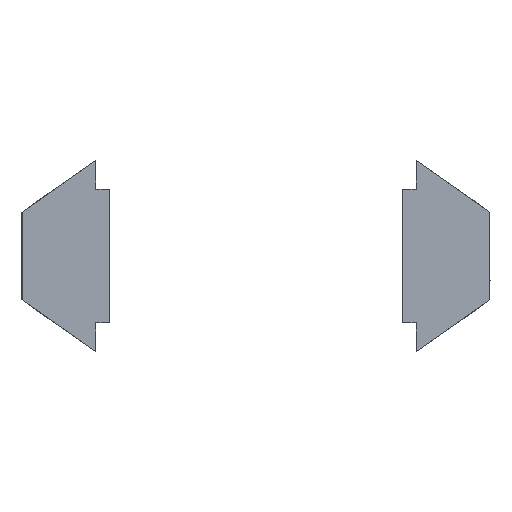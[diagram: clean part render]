
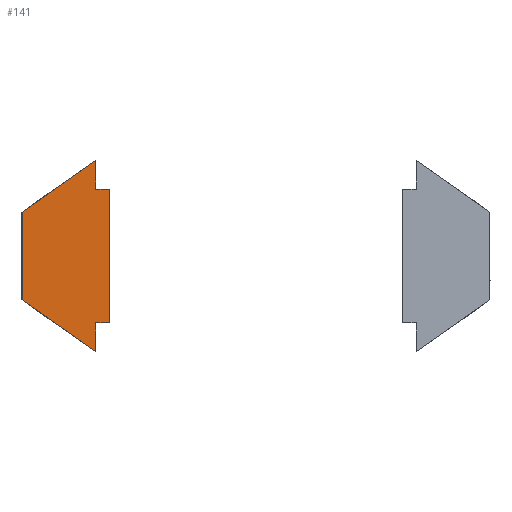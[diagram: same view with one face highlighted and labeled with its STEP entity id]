
A CAD part, left-side view. The second image highlights one B-rep face of the part: STEP entity #141.
In plain terms, the highlighted planar face has unit normal (-1, 0, 0) as drawn and (0, -1, 0) by its records, which use the part's own axes.
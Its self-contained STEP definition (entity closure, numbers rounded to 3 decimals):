
#141=ADVANCED_FACE('',(#232),#3375,.T.);
#232=FACE_OUTER_BOUND('',#324,.T.);
#324=EDGE_LOOP('',(#452,#453,#454,#455,#456,#457,#458,#459));
#452=ORIENTED_EDGE('',*,*,#2262,.F.);
#453=ORIENTED_EDGE('',*,*,#2259,.F.);
#454=ORIENTED_EDGE('',*,*,#2254,.F.);
#455=ORIENTED_EDGE('',*,*,#2251,.F.);
#456=ORIENTED_EDGE('',*,*,#2248,.F.);
#457=ORIENTED_EDGE('',*,*,#2245,.F.);
#458=ORIENTED_EDGE('',*,*,#2264,.T.);
#459=ORIENTED_EDGE('',*,*,#2237,.F.);
#977=PCURVE('',#3367,#1481);
#986=PCURVE('',#3369,#1490);
#990=PCURVE('',#3370,#1494);
#994=PCURVE('',#3371,#1498);
#998=PCURVE('',#3372,#1502);
#1004=PCURVE('',#3373,#1508);
#1008=PCURVE('',#3374,#1512);
#1012=PCURVE('',#3375,#1516);
#1013=PCURVE('',#3375,#1517);
#1014=PCURVE('',#3375,#1518);
#1015=PCURVE('',#3375,#1519);
#1016=PCURVE('',#3375,#1520);
#1017=PCURVE('',#3375,#1521);
#1018=PCURVE('',#3375,#1522);
#1019=PCURVE('',#3375,#1523);
#1036=PCURVE('',#3368,#1540);
#1481=DEFINITIONAL_REPRESENTATION('',(#2494),#6849);
#1490=DEFINITIONAL_REPRESENTATION('',(#2509),#6849);
#1494=DEFINITIONAL_REPRESENTATION('',(#2516),#6849);
#1498=DEFINITIONAL_REPRESENTATION('',(#2523),#6849);
#1502=DEFINITIONAL_REPRESENTATION('',(#2530),#6849);
#1508=DEFINITIONAL_REPRESENTATION('',(#2539),#6849);
#1512=DEFINITIONAL_REPRESENTATION('',(#2546),#6849);
#1516=DEFINITIONAL_REPRESENTATION('',(#2551),#6849);
#1517=DEFINITIONAL_REPRESENTATION('',(#2552),#6849);
#1518=DEFINITIONAL_REPRESENTATION('',(#2553),#6849);
#1519=DEFINITIONAL_REPRESENTATION('',(#2554),#6849);
#1520=DEFINITIONAL_REPRESENTATION('',(#2555),#6849);
#1521=DEFINITIONAL_REPRESENTATION('',(#2556),#6849);
#1522=DEFINITIONAL_REPRESENTATION('',(#2558),#6849);
#1523=DEFINITIONAL_REPRESENTATION('',(#2559),#6849);
#1540=DEFINITIONAL_REPRESENTATION('',(#2576),#6849);
#1985=SURFACE_CURVE('',#2493,(#977,#1019),.PCURVE_S1.);
#1993=SURFACE_CURVE('',#2508,(#986,#1017),.PCURVE_S1.);
#1996=SURFACE_CURVE('',#2515,(#990,#1016),.PCURVE_S1.);
#1999=SURFACE_CURVE('',#2522,(#994,#1015),.PCURVE_S1.);
#2002=SURFACE_CURVE('',#2529,(#998,#1014),.PCURVE_S1.);
#2007=SURFACE_CURVE('',#2538,(#1004,#1013),.PCURVE_S1.);
#2010=SURFACE_CURVE('',#2545,(#1008,#1012),.PCURVE_S1.);
#2012=SURFACE_CURVE('',#2557,(#1018,#1036),.PCURVE_S1.);
#2237=EDGE_CURVE('',#3185,#3186,#1985,.T.);
#2245=EDGE_CURVE('',#3189,#3191,#1993,.T.);
#2248=EDGE_CURVE('',#3191,#3193,#1996,.T.);
#2251=EDGE_CURVE('',#3193,#3195,#1999,.T.);
#2254=EDGE_CURVE('',#3195,#3197,#2002,.T.);
#2259=EDGE_CURVE('',#3197,#3199,#2007,.T.);
#2262=EDGE_CURVE('',#3199,#3185,#2010,.T.);
#2264=EDGE_CURVE('',#3189,#3186,#2012,.T.);
#2493=B_SPLINE_CURVE_WITH_KNOTS('',1,(#3766,#3767),.UNSPECIFIED.,.F.,.F.,
(2,2),(-3.906,0.),.UNSPECIFIED.);
#2494=B_SPLINE_CURVE_WITH_KNOTS('',1,(#3768,#3769),.UNSPECIFIED.,.F.,.F.,
(2,2),(-3.906,0.),.UNSPECIFIED.);
#2508=B_SPLINE_CURVE_WITH_KNOTS('',1,(#3842,#3843),.UNSPECIFIED.,.F.,.F.,
(2,2),(3.819,7.725),.UNSPECIFIED.);
#2509=B_SPLINE_CURVE_WITH_KNOTS('',1,(#3844,#3845),.UNSPECIFIED.,.F.,.F.,
(2,2),(3.819,7.725),.UNSPECIFIED.);
#2515=B_SPLINE_CURVE_WITH_KNOTS('',1,(#3856,#3857),.UNSPECIFIED.,.F.,.F.,
(2,2),(7.725,8.975),.UNSPECIFIED.);
#2516=B_SPLINE_CURVE_WITH_KNOTS('',1,(#3858,#3859),.UNSPECIFIED.,.F.,.F.,
(2,2),(7.725,8.975),.UNSPECIFIED.);
#2522=B_SPLINE_CURVE_WITH_KNOTS('',1,(#3870,#3871),.UNSPECIFIED.,.F.,.F.,
(2,2),(8.975,9.575),.UNSPECIFIED.);
#2523=B_SPLINE_CURVE_WITH_KNOTS('',1,(#3872,#3873),.UNSPECIFIED.,.F.,.F.,
(2,2),(8.975,9.575),.UNSPECIFIED.);
#2529=B_SPLINE_CURVE_WITH_KNOTS('',1,(#3884,#3885),.UNSPECIFIED.,.F.,.F.,
(2,2),(9.575,15.375),.UNSPECIFIED.);
#2530=B_SPLINE_CURVE_WITH_KNOTS('',1,(#3886,#3887),.UNSPECIFIED.,.F.,.F.,
(2,2),(9.575,15.375),.UNSPECIFIED.);
#2538=B_SPLINE_CURVE_WITH_KNOTS('',1,(#3958,#3959),.UNSPECIFIED.,.F.,.F.,
(2,2),(15.375,15.975),.UNSPECIFIED.);
#2539=B_SPLINE_CURVE_WITH_KNOTS('',1,(#3960,#3961),.UNSPECIFIED.,.F.,.F.,
(2,2),(15.375,15.975),.UNSPECIFIED.);
#2545=B_SPLINE_CURVE_WITH_KNOTS('',1,(#3972,#3973),.UNSPECIFIED.,.F.,.F.,
(2,2),(15.975,17.225),.UNSPECIFIED.);
#2546=B_SPLINE_CURVE_WITH_KNOTS('',1,(#3974,#3975),.UNSPECIFIED.,.F.,.F.,
(2,2),(15.975,17.225),.UNSPECIFIED.);
#2551=B_SPLINE_CURVE_WITH_KNOTS('',1,(#3984,#3985),.UNSPECIFIED.,.F.,.F.,
(2,2),(15.975,17.225),.UNSPECIFIED.);
#2552=B_SPLINE_CURVE_WITH_KNOTS('',1,(#3986,#3987),.UNSPECIFIED.,.F.,.F.,
(2,2),(15.375,15.975),.UNSPECIFIED.);
#2553=B_SPLINE_CURVE_WITH_KNOTS('',1,(#3988,#3989),.UNSPECIFIED.,.F.,.F.,
(2,2),(9.575,15.375),.UNSPECIFIED.);
#2554=B_SPLINE_CURVE_WITH_KNOTS('',1,(#3990,#3991),.UNSPECIFIED.,.F.,.F.,
(2,2),(8.975,9.575),.UNSPECIFIED.);
#2555=B_SPLINE_CURVE_WITH_KNOTS('',1,(#3992,#3993),.UNSPECIFIED.,.F.,.F.,
(2,2),(7.725,8.975),.UNSPECIFIED.);
#2556=B_SPLINE_CURVE_WITH_KNOTS('',1,(#3994,#3995),.UNSPECIFIED.,.F.,.F.,
(2,2),(3.819,7.725),.UNSPECIFIED.);
#2557=B_SPLINE_CURVE_WITH_KNOTS('',1,(#3996,#3997),.UNSPECIFIED.,.F.,.F.,
(2,2),(-3.819,0.),.UNSPECIFIED.);
#2558=B_SPLINE_CURVE_WITH_KNOTS('',1,(#3998,#3999),.UNSPECIFIED.,.F.,.F.,
(2,2),(-3.819,0.),.UNSPECIFIED.);
#2559=B_SPLINE_CURVE_WITH_KNOTS('',1,(#4000,#4001),.UNSPECIFIED.,.F.,.F.,
(2,2),(-3.906,0.),.UNSPECIFIED.);
#2576=B_SPLINE_CURVE_WITH_KNOTS('',1,(#4063,#4064),.UNSPECIFIED.,.F.,.F.,
(2,2),(-3.819,0.),.UNSPECIFIED.);
#3185=VERTEX_POINT('',#3696);
#3186=VERTEX_POINT('',#3697);
#3189=VERTEX_POINT('',#3700);
#3191=VERTEX_POINT('',#3702);
#3193=VERTEX_POINT('',#3704);
#3195=VERTEX_POINT('',#3706);
#3197=VERTEX_POINT('',#3708);
#3199=VERTEX_POINT('',#3710);
#3367=PLANE('',#3483);
#3368=PLANE('',#3484);
#3369=PLANE('',#3485);
#3370=PLANE('',#3486);
#3371=PLANE('',#3487);
#3372=PLANE('',#3488);
#3373=PLANE('',#3489);
#3374=PLANE('',#3490);
#3375=PLANE('',#3491);
#3483=AXIS2_PLACEMENT_3D('',#3650,#3564,$);
#3484=AXIS2_PLACEMENT_3D('',#3651,#3565,$);
#3485=AXIS2_PLACEMENT_3D('',#3652,#3566,$);
#3486=AXIS2_PLACEMENT_3D('',#3653,#3567,$);
#3487=AXIS2_PLACEMENT_3D('',#3654,#3568,$);
#3488=AXIS2_PLACEMENT_3D('',#3655,#3569,$);
#3489=AXIS2_PLACEMENT_3D('',#3656,#3570,$);
#3490=AXIS2_PLACEMENT_3D('',#3657,#3571,$);
#3491=AXIS2_PLACEMENT_3D('',#3694,#3572,$);
#3564=DIRECTION('',(-0.574,0.,-0.819));
#3565=DIRECTION('',(-1.,0.,0.));
#3566=DIRECTION('',(-0.574,0.,0.819));
#3567=DIRECTION('',(1.,0.,0.));
#3568=DIRECTION('',(0.,0.,1.));
#3569=DIRECTION('',(1.,0.,0.));
#3570=DIRECTION('',(0.,0.,-1.));
#3571=DIRECTION('',(1.,0.,0.));
#3572=DIRECTION('',(0.,-1.,0.));
#3650=CARTESIAN_POINT('',(-0.6,-11.,-4.15));
#3651=CARTESIAN_POINT('',(-3.8,-11.,-1.909));
#3652=CARTESIAN_POINT('',(-3.8,-11.,1.909));
#3653=CARTESIAN_POINT('',(-0.6,-11.,4.15));
#3654=CARTESIAN_POINT('',(-0.6,-11.,2.9));
#3655=CARTESIAN_POINT('',(0.,-11.,2.9));
#3656=CARTESIAN_POINT('',(0.,-11.,-2.9));
#3657=CARTESIAN_POINT('',(-0.6,-11.,-2.9));
#3694=CARTESIAN_POINT('',(-4.275,-11.,5.188));
#3696=CARTESIAN_POINT('',(-0.6,-11.,-4.15));
#3697=CARTESIAN_POINT('',(-3.8,-11.,-1.909));
#3700=CARTESIAN_POINT('',(-3.8,-11.,1.909));
#3702=CARTESIAN_POINT('',(-0.6,-11.,4.15));
#3704=CARTESIAN_POINT('',(-0.6,-11.,2.9));
#3706=CARTESIAN_POINT('',(0.,-11.,2.9));
#3708=CARTESIAN_POINT('',(0.,-11.,-2.9));
#3710=CARTESIAN_POINT('',(-0.6,-11.,-2.9));
#3766=CARTESIAN_POINT('',(-0.6,-11.,-4.15));
#3767=CARTESIAN_POINT('',(-3.8,-11.,-1.909));
#3768=CARTESIAN_POINT('',(-3.906,0.));
#3769=CARTESIAN_POINT('',(0.,0.));
#3842=CARTESIAN_POINT('',(-3.8,-11.,1.909));
#3843=CARTESIAN_POINT('',(-0.6,-11.,4.15));
#3844=CARTESIAN_POINT('',(3.819,0.));
#3845=CARTESIAN_POINT('',(7.725,0.));
#3856=CARTESIAN_POINT('',(-0.6,-11.,4.15));
#3857=CARTESIAN_POINT('',(-0.6,-11.,2.9));
#3858=CARTESIAN_POINT('',(7.725,0.));
#3859=CARTESIAN_POINT('',(8.975,0.));
#3870=CARTESIAN_POINT('',(-0.6,-11.,2.9));
#3871=CARTESIAN_POINT('',(0.,-11.,2.9));
#3872=CARTESIAN_POINT('',(8.975,0.));
#3873=CARTESIAN_POINT('',(9.575,0.));
#3884=CARTESIAN_POINT('',(0.,-11.,2.9));
#3885=CARTESIAN_POINT('',(0.,-11.,-2.9));
#3886=CARTESIAN_POINT('',(9.575,0.));
#3887=CARTESIAN_POINT('',(15.375,0.));
#3958=CARTESIAN_POINT('',(0.,-11.,-2.9));
#3959=CARTESIAN_POINT('',(-0.6,-11.,-2.9));
#3960=CARTESIAN_POINT('',(15.375,0.));
#3961=CARTESIAN_POINT('',(15.975,0.));
#3972=CARTESIAN_POINT('',(-0.6,-11.,-2.9));
#3973=CARTESIAN_POINT('',(-0.6,-11.,-4.15));
#3974=CARTESIAN_POINT('',(15.975,0.));
#3975=CARTESIAN_POINT('',(17.225,0.));
#3984=CARTESIAN_POINT('',(-1.25,0.));
#3985=CARTESIAN_POINT('',(0.,0.));
#3986=CARTESIAN_POINT('',(-1.25,0.6));
#3987=CARTESIAN_POINT('',(-1.25,0.));
#3988=CARTESIAN_POINT('',(-7.05,0.6));
#3989=CARTESIAN_POINT('',(-1.25,0.6));
#3990=CARTESIAN_POINT('',(-7.05,0.));
#3991=CARTESIAN_POINT('',(-7.05,0.6));
#3992=CARTESIAN_POINT('',(-8.3,0.));
#3993=CARTESIAN_POINT('',(-7.05,0.));
#3994=CARTESIAN_POINT('',(-6.059,-3.2));
#3995=CARTESIAN_POINT('',(-8.3,0.));
#3996=CARTESIAN_POINT('',(-3.8,-11.,1.909));
#3997=CARTESIAN_POINT('',(-3.8,-11.,-1.909));
#3998=CARTESIAN_POINT('',(-6.059,-3.2));
#3999=CARTESIAN_POINT('',(-2.241,-3.2));
#4000=CARTESIAN_POINT('',(0.,0.));
#4001=CARTESIAN_POINT('',(-2.241,-3.2));
#4063=CARTESIAN_POINT('',(3.819,0.));
#4064=CARTESIAN_POINT('',(0.,0.));
#6849=(
GEOMETRIC_REPRESENTATION_CONTEXT(2)
PARAMETRIC_REPRESENTATION_CONTEXT()
REPRESENTATION_CONTEXT('pspace','')
);
